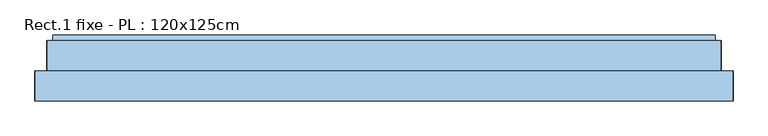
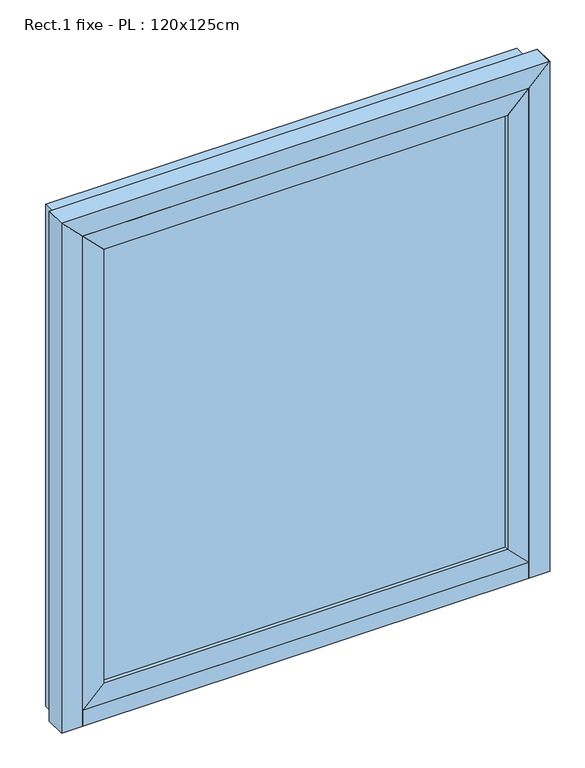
"""IFC4 building model written with IfcOpenShell, lengths in millimetres: window geometry, Rect.1 fixe - PL : 120x125cm."""

from ifc_helpers import new_model, si_unit, frame, origin, origin_with_axes, place, context, project, spatial, polyline, outline, extrude, source, transform, mapped, element, save


def rect_1_fixe_pl_120x125cm_f3d20bb7(model_context):
    return source(origin(), model_context, "Body", "SweptSolid", [
        extrude(outline(polyline([(40.0, -530.0), (90.0, -480.0), (1180.0, -480.0), (1230.0, -530.0), (40.0, -530.0)])), frame((0.0, 0.0, 0.0), z_axis=(0.0, 1.0, 0.0), x_axis=(0.0, 0.0, 1.0)), (0.0, 0.0, 1.0), 40.0),
        extrude(outline(polyline([(90.0, 480.0), (40.0, 530.0), (1230.0, 530.0), (1180.0, 480.0), (90.0, 480.0)])), frame((0.0, 0.0, 0.0), z_axis=(0.0, 1.0, 0.0), x_axis=(0.0, 0.0, 1.0)), (0.0, 0.0, 1.0), 40.0),
        extrude(outline(polyline([(1230.0, 530.0), (1230.0, -530.0), (1180.0, -480.0), (1180.0, 480.0), (1230.0, 530.0)])), frame((0.0, 0.0, 0.0), z_axis=(0.0, 1.0, 0.0), x_axis=(0.0, 0.0, 1.0)), (0.0, 0.0, 1.0), 40.0),
        extrude(outline(polyline([(480.0, 10.0), (-480.0, 10.0), (-480.0, 30.0), (480.0, 30.0), (480.0, 10.0)])), frame((0.0, 0.0, 90.0), z_axis=(0.0, 0.0, 1.0), x_axis=(1.0, 0.0, 0.0)), (0.0, 0.0, 1.0), 1090.0),
        extrude(outline(polyline([(40.0, 530.0), (90.0, 480.0), (90.0, -480.0), (40.0, -530.0), (40.0, 530.0)])), frame((0.0, 0.0, 0.0), z_axis=(0.0, 1.0, 0.0), x_axis=(0.0, 0.0, 1.0)), (0.0, 0.0, 1.0), 40.0),
        extrude(outline(polyline([(530.0, 50.0), (530.0, 0.0), (-530.0, 0.0), (-530.0, 50.0), (530.0, 50.0)])), origin_with_axes(), (0.0, 0.0, 1.0), 40.0),
        extrude(outline(polyline([(110.0, 30.0), (110.0, 0.0), (50.0, 0.0), (50.0, 40.0), (110.0, 30.0)])), frame((-550.0, 0.0, 0.0), z_axis=(1.0, 0.0, 0.0), x_axis=(0.0, 1.0, 0.0)), (0.0, 0.0, 1.0), 1100.0),
        extrude(outline(polyline([(1260.0, -560.0), (0.0, -560.0), (0.0, -550.0), (1250.0, -550.0), (1260.0, -560.0)])), frame((0.0, 50.0, 0.0), z_axis=(0.0, 1.0, 0.0), x_axis=(0.0, 0.0, 1.0)), (0.0, 0.0, 1.0), 50.0),
        extrude(outline(polyline([(1260.0, 560.0), (1250.0, 550.0), (0.0, 550.0), (0.0, 560.0), (1260.0, 560.0)])), frame((0.0, 50.0, 0.0), z_axis=(0.0, 1.0, 0.0), x_axis=(0.0, 0.0, 1.0)), (0.0, 0.0, 1.0), 50.0),
        extrude(outline(polyline([(0.0, -580.0), (0.0, -530.0), (1230.0, -530.0), (1280.0, -580.0), (0.0, -580.0)])), frame((0.0, 0.0, 0.0), z_axis=(0.0, 1.0, 0.0), x_axis=(0.0, 0.0, 1.0)), (0.0, 0.0, 1.0), 50.0),
        extrude(outline(polyline([(0.0, 580.0), (1280.0, 580.0), (1230.0, 530.0), (0.0, 530.0), (0.0, 580.0)])), frame((0.0, 0.0, 0.0), z_axis=(0.0, 1.0, 0.0), x_axis=(0.0, 0.0, 1.0)), (0.0, 0.0, 1.0), 50.0),
        extrude(outline(polyline([(1260.0, -560.0), (1250.0, -550.0), (1250.0, 550.0), (1260.0, 560.0), (1260.0, -560.0)])), frame((0.0, 50.0, 0.0), z_axis=(0.0, 1.0, 0.0), x_axis=(0.0, 0.0, 1.0)), (0.0, 0.0, 1.0), 50.0),
        extrude(outline(polyline([(1280.0, 580.0), (1280.0, -580.0), (1230.0, -530.0), (1230.0, 530.0), (1280.0, 580.0)])), frame((0.0, 0.0, 0.0), z_axis=(0.0, 1.0, 0.0), x_axis=(0.0, 0.0, 1.0)), (0.0, 0.0, 1.0), 50.0),
    ])


if __name__ == "__main__":
    model = new_model("IFC4")
    model_context = context("Model", 3, world=origin())
    ifc_project = project(units=[si_unit("LENGTHUNIT", "METRE", prefix="MILLI")], contexts=[model_context])
    site = spatial("IfcSite", under=ifc_project)
    building = spatial("IfcBuilding", under=site)
    placement = place(None, origin())
    rect_1_fixe_pl_120x125cm_shape = rect_1_fixe_pl_120x125cm_f3d20bb7(model_context)
    element("IfcWindow", 1, ObjectType="Rect.1 fixe - PL : 120x125cm", at=placement, inside=building, context=model_context, shape_type="MappedRepresentation", body=[
        mapped(rect_1_fixe_pl_120x125cm_shape, transform((0.0, 0.0, 0.0), x_axis=(1.0, 0.0, 0.0), y_axis=(0.0, 1.0, 0.0), z_axis=(0.0, 0.0, 1.0))),
    ])
    save(model, "model.ifc")
